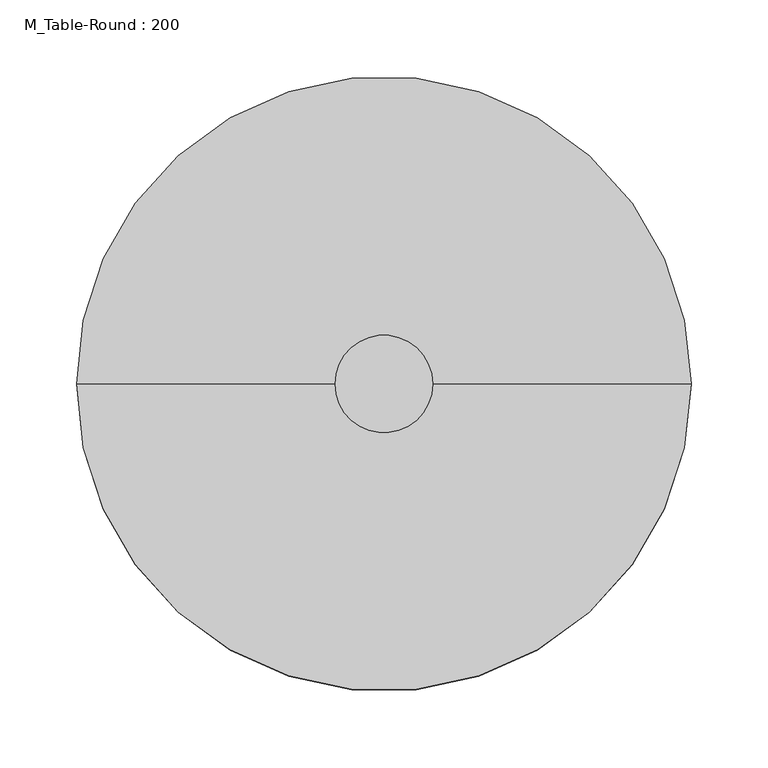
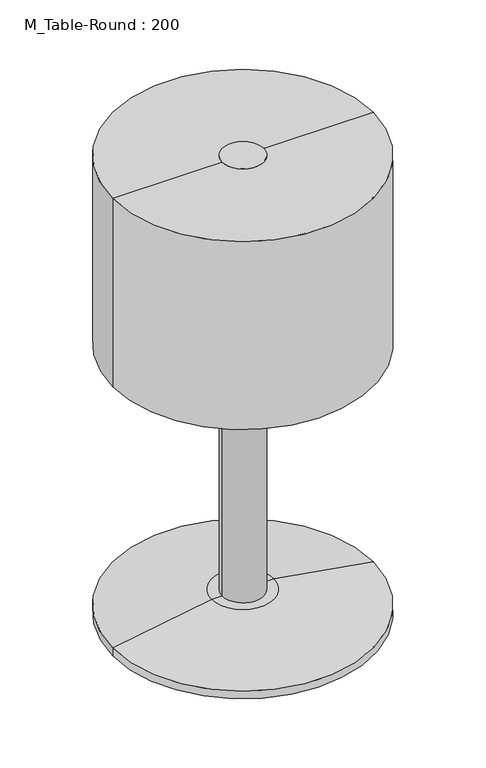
"""IFC4 building model written with IfcOpenShell, lengths in millimetres: furniture geometry, M_Table-Round : 200."""

from ifc_helpers import new_model, si_unit, point, frame, origin, origin_2d, place, context, project, spatial, polyline, circle_curve, ellipse_curve, trimmed, segment, composite_curve, outline, extrude, source, transform, mapped, element, save
from ifc_brep_helpers import plane_surface, cylinder_surface, revolved_surface, advanced_brep


def m_table_round_200_289049f1(model_context):
    return source(origin(), model_context, "Body", "SolidModel", [
        extrude(outline(composite_curve([segment(trimmed(circle_curve(origin_2d(), 31.75), [point((-31.75, 0.0))], [point((31.75, 0.0))], False, "CARTESIAN"), True, "CONTINUOUS"), segment(trimmed(circle_curve(origin_2d(), 31.75), [point((31.75, 0.0))], [point((-31.75, 0.0))], False, "CARTESIAN"), True, "CONTINUOUS")], self_intersect=False)), frame((0.0, 0.0, 38.1), z_axis=(0.0, 0.0, 1.0), x_axis=(1.0, 0.0, 0.0)), (0.0, 0.0, 1.0), 704.85),
        advanced_brep(
        [(200.0, 0.0, 742.95), (-200.0, 0.0, 742.95), (0.0, 0.0, 742.95), (0.0, 0.0, 450.0), (-158.1011364, 0.0, 450.0), (158.1011364, 0.0, 450.0), (-194.7526659, 0.0, 443.5373465), (194.7526659, 0.0, 443.5373465), (-200.0, 0.0, 437.2838172), (200.0, 0.0, 437.2838172)],
        [
            (0, 1, circle_curve(frame((0.0, 0.0, 742.95), z_axis=(0.0, 0.0, 1.0), x_axis=(-1.0, 0.0, 0.0)), 200.0)),
            (1, 2),
            (2, 0),
            (1, 0, circle_curve(frame((0.0, 0.0, 742.95), z_axis=(0.0, 0.0, 1.0), x_axis=(-1.0, 0.0, 0.0)), 200.0)),
            (3, 4),
            (4, 5, circle_curve(frame((0.0, 0.0, 450.0), z_axis=(0.0, 0.0, -1.0), x_axis=(-1.0, 0.0, 0.0)), 158.1011364)),
            (5, 3),
            (5, 4, circle_curve(frame((0.0, 0.0, 450.0), z_axis=(0.0, 0.0, -1.0), x_axis=(-1.0, 0.0, 0.0)), 158.1011364)),
            (4, 6),
            (6, 7, circle_curve(frame((0.0, 0.0, 443.5373465), z_axis=(0.0, 0.0, -1.0), x_axis=(-1.0, 0.0, 0.0)), 194.7526659)),
            (7, 5),
            (7, 6, circle_curve(frame((0.0, 0.0, 443.5373465), z_axis=(0.0, 0.0, -1.0), x_axis=(-1.0, 0.0, 0.0)), 194.7526659)),
            (6, 8, circle_curve(frame((-193.65, 0.0, 437.2838172), z_axis=(0.0, -1.0, 0.0), x_axis=(1.0, 0.0, 0.0)), 6.35)),
            (8, 9, circle_curve(frame((0.0, 0.0, 437.2838172), z_axis=(0.0, 0.0, -1.0), x_axis=(-1.0, 0.0, 0.0)), 200.0)),
            (9, 7, circle_curve(frame((193.65, 0.0, 437.2838172), z_axis=(0.0, -1.0, 0.0), x_axis=(-1.0, 0.0, 0.0)), 6.35)),
            (9, 8, circle_curve(frame((0.0, 0.0, 437.2838172), z_axis=(0.0, 0.0, -1.0), x_axis=(-1.0, 0.0, 0.0)), 200.0)),
            (8, 1),
            (0, 9),
        ],
        [
            plane_surface(frame((0.0, 0.0, 742.95), z_axis=(0.0, 0.0, 1.0), x_axis=(-1.0, 0.0, 0.0))),
            plane_surface(frame((0.0, 0.0, 450.0), z_axis=(0.0, 0.0, -1.0), x_axis=(-1.0, 0.0, 0.0))),
            revolved_surface(polyline([(-194.7526659, 0.0, 443.5373465), (-158.1011364, 0.0, 450.0)]), (0.0, 0.0, 526.2), (0.0, 0.0, -1.0)),
            revolved_surface(trimmed(ellipse_curve(frame((-193.65, 0.0, 437.2838172), z_axis=(0.0, 1.0, 0.0), x_axis=(1.0, 0.0, 0.0)), 6.35, 6.35), [point((-200.0, 0.0, 437.2838172))], [point((-194.7526659, 0.0, 443.5373465))], True, "CARTESIAN"), (0.0, 0.0, 526.2), (0.0, 0.0, -1.0)),
            cylinder_surface(frame((0.0, 0.0, 526.2), z_axis=(0.0, 0.0, -1.0), x_axis=(-1.0, 0.0, 0.0)), 200.0),
        ],
        [
            (0, [[1, 2, 3]]),
            (0, [[4, -3, -2]]),
            (1, [[5, 6, 7]]),
            (1, [[-7, 8, -5]]),
            (2, [[-6, 9, 10, 11]]),
            (2, [[-8, -11, 12, -9]]),
            (3, [[-10, 13, 14, 15]]),
            (3, [[-12, -15, 16, -13]]),
            (4, [[-14, 17, -1, 18]]),
            (4, [[-16, -18, -4, -17]]),
        ],
    ),
        advanced_brep(
        [(0.0, 0.0, 0.0), (-200.0, 0.0, 0.0), (200.0, 0.0, 0.0), (47.625, 0.0, 38.1), (-47.625, 0.0, 38.1), (0.0, 0.0, 38.1), (200.0, 0.0, 12.7), (-200.0, 0.0, 12.7)],
        [
            (0, 1),
            (1, 2, circle_curve(frame((0.0, 0.0, 0.0), z_axis=(0.0, 0.0, -1.0), x_axis=(-1.0, 0.0, 0.0)), 200.0)),
            (2, 0),
            (2, 1, circle_curve(frame((0.0, 0.0, 0.0), z_axis=(0.0, 0.0, -1.0), x_axis=(-1.0, 0.0, 0.0)), 200.0)),
            (3, 4, circle_curve(frame((0.0, 0.0, 38.1), z_axis=(0.0, 0.0, 1.0), x_axis=(-1.0, 0.0, 0.0)), 47.625)),
            (4, 5),
            (5, 3),
            (4, 3, circle_curve(frame((0.0, 0.0, 38.1), z_axis=(0.0, 0.0, 1.0), x_axis=(-1.0, 0.0, 0.0)), 47.625)),
            (6, 7, circle_curve(frame((0.0, 0.0, 12.7), z_axis=(0.0, 0.0, 1.0), x_axis=(-1.0, 0.0, 0.0)), 200.0)),
            (7, 4),
            (3, 6),
            (7, 6, circle_curve(frame((0.0, 0.0, 12.7), z_axis=(0.0, 0.0, 1.0), x_axis=(-1.0, 0.0, 0.0)), 200.0)),
            (1, 7),
            (6, 2),
        ],
        [
            plane_surface(frame((0.0, 0.0, 0.0), z_axis=(0.0, 0.0, -1.0), x_axis=(-1.0, 0.0, 0.0))),
            plane_surface(frame((0.0, 0.0, 38.1), z_axis=(0.0, 0.0, 1.0), x_axis=(-1.0, 0.0, 0.0))),
            revolved_surface(polyline([(-47.625, 0.0, 38.1), (-200.0, 0.0, 12.7)]), (0.0, 0.0, 215.9), (0.0, 0.0, -1.0)),
            cylinder_surface(frame((0.0, 0.0, 215.9), z_axis=(0.0, 0.0, -1.0), x_axis=(-1.0, 0.0, 0.0)), 200.0),
        ],
        [
            (0, [[1, 2, 3]]),
            (0, [[-3, 4, -1]]),
            (1, [[5, 6, 7]]),
            (1, [[8, -7, -6]]),
            (2, [[9, 10, -5, 11]]),
            (2, [[12, -11, -8, -10]]),
            (3, [[-2, 13, -9, 14]]),
            (3, [[-4, -14, -12, -13]]),
        ],
    ),
    ])


if __name__ == "__main__":
    model = new_model("IFC4")
    model_context = context("Model", 3, world=origin())
    ifc_project = project(units=[si_unit("LENGTHUNIT", "METRE", prefix="MILLI")], contexts=[model_context])
    site = spatial("IfcSite", under=ifc_project)
    building = spatial("IfcBuilding", under=site)
    placement = place(None, origin())
    m_table_round_200_shape = m_table_round_200_289049f1(model_context)
    element("IfcFurniture", 1, ObjectType="M_Table-Round : 200", at=placement, inside=building, context=model_context, shape_type="MappedRepresentation", body=[
        mapped(m_table_round_200_shape, transform((0.0, 0.0, 0.0), x_axis=(1.0, 0.0, 0.0), y_axis=(0.0, 1.0, 0.0), z_axis=(0.0, 0.0, 1.0))),
    ])
    save(model, "model.ifc")
